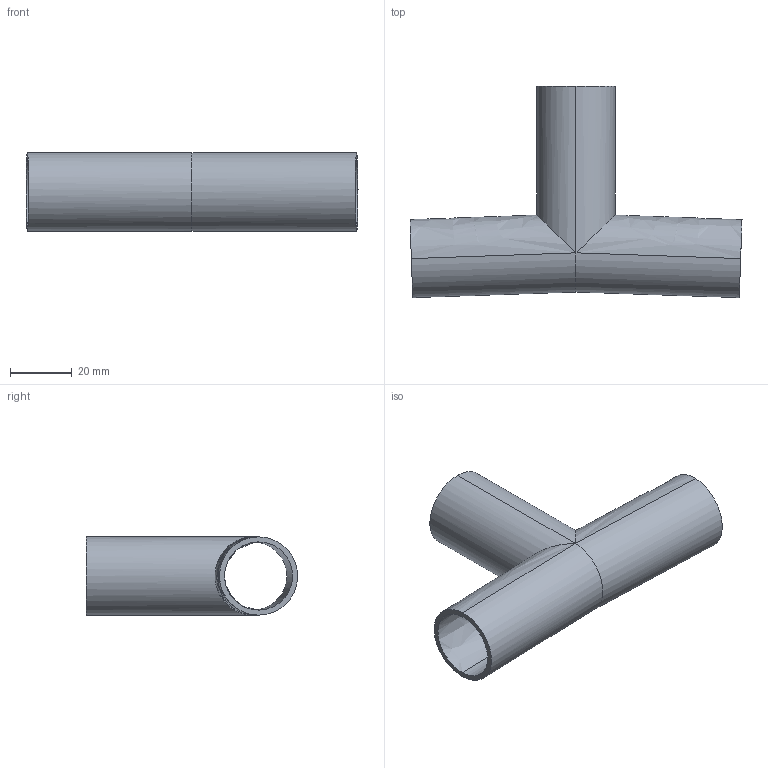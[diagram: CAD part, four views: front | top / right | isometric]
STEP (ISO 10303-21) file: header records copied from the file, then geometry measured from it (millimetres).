
FILE_DESCRIPTION (( 'STEP AP214' ), '1' );
FILE_NAME ('TE7WWW1766L1.0-...STEP', '2016-05-23T05:25:23', ( 'eran' ), ( '' ), 'SwSTEP 2.0', 'SolidWorks 2016', '' );
FILE_SCHEMA (( 'AUTOMOTIVE_DESIGN' ));
Length unit declared in the file: millimetre
Products named in the file (1): TE7WWW1766L1.0-..
Bounding box: 107.69 x 68.52 x 25.4 mm (x, y, z)
Volume: 18067.8 mm3; surface area: 22147.6 mm2
Topology: 1 solids, 1 shells, 15 faces, 30 edges, 16 vertices
Faces by surface type: bspline 8, cylinder 4, plane 3
Entity records: 1487 total; most frequent: CARTESIAN_POINT 1189, ORIENTED_EDGE 60, DIRECTION 40, EDGE_CURVE 30, EDGE_LOOP 18, VERTEX_POINT 16, FACE_OUTER_BOUND 15, ADVANCED_FACE 15
